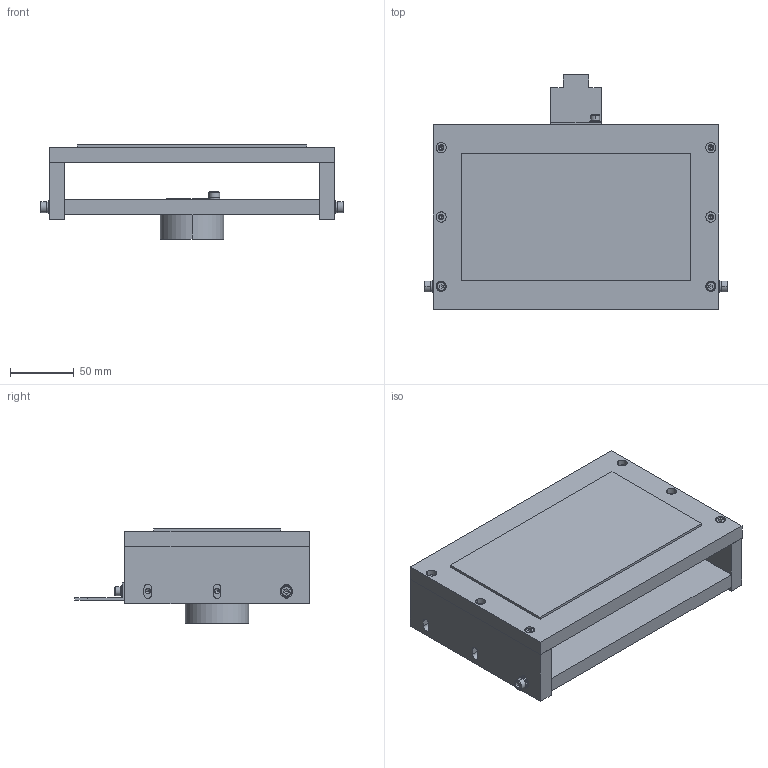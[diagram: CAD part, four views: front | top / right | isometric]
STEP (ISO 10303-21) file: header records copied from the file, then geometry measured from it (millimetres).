
FILE_DESCRIPTION (( 'STEP AP214' ), '1' );
FILE_NAME ('20_X-Y-Theta_mechanism_Theta.STEP', '2021-02-16T01:34:33', ( '' ), ( '' ), 'SwSTEP 2.0', 'SolidWorks 2017', '' );
FILE_SCHEMA (( 'AUTOMOTIVE_DESIGN' ));
Length unit declared in the file: millimetre
Products named in the file (13): 0296_302_SCB4-12_1; 0296_012_SCBZ5-20; 0296_208_Dog; 0296_204_Plate; 0296_101_Direct_Drive_Motor; 0296_203_Plate; 0296_008_SCBS4-8; 0296_Z_Direct_Drive_Motor_2; 0296_Work-A; _0296_SA03; 0296_009_SCBS5-20; 20_X-Y-Theta_mechanism_Theta; 0296_205_Plate
Assembly tree (15 placements, depth 4):
  20_X-Y-Theta_mechanism_Theta
    _0296_SA03
      0296_008_SCBS4-8
      0296_009_SCBS5-20  x2
      0296_012_SCBZ5-20
      0296_101_Direct_Drive_Motor
        0296_Z_Direct_Drive_Motor_2
      0296_203_Plate  x2
      0296_204_Plate
      0296_205_Plate
      0296_208_Dog
      0296_302_SCB4-12_1  x2
    0296_Work-A
Bounding box: 238.6 x 184.5 x 74 mm (x, y, z)
Volume: 957670.4 mm3; surface area: 234224 mm2
Topology: 20 solids, 20 shells, 414 faces, 991 edges, 608 vertices
Faces by surface type: plane 179, cylinder 167, cone 68
Entity records: 13109 total; most frequent: DIRECTION 1715, CARTESIAN_POINT 1523, ORIENTED_EDGE 1438, EDGE_CURVE 719, AXIS2_PLACEMENT_3D 659, VERTEX_POINT 467, VECTOR 397, LINE 397
